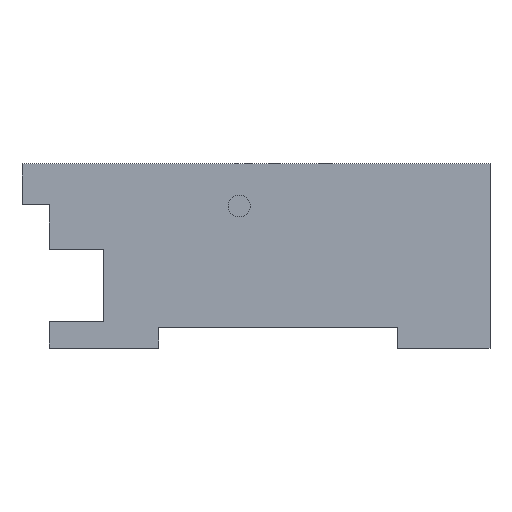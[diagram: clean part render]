
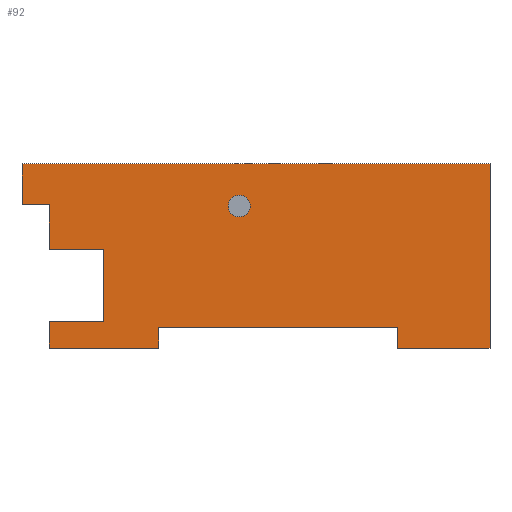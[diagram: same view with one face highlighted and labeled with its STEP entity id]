
A CAD part, top view. The second image highlights one B-rep face of the part: STEP entity #92.
In plain terms, the highlighted planar face has unit normal (0, 0, 1).
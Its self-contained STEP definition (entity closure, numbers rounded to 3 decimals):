
#6 = VERTEX_POINT ( 'NONE', #212 ) ;
#7 = EDGE_CURVE ( 'NONE', #6, #91, #211, .T. ) ;
#19 = VERTEX_POINT ( 'NONE', #282 ) ;
#21 = EDGE_CURVE ( 'NONE', #77, #19, #281, .T. ) ;
#40 = EDGE_CURVE ( 'NONE', #153, #91, #248, .T. ) ;
#62 = EDGE_CURVE ( 'NONE', #63, #114, #486, .T. ) ;
#63 = VERTEX_POINT ( 'NONE', #482 ) ;
#73 = EDGE_CURVE ( 'NONE', #74, #75, #466, .T. ) ;
#74 = VERTEX_POINT ( 'NONE', #462 ) ;
#75 = VERTEX_POINT ( 'NONE', #461 ) ;
#77 = VERTEX_POINT ( 'NONE', #456 ) ;
#79 = EDGE_CURVE ( 'NONE', #75, #77, #455, .T. ) ;
#91 = VERTEX_POINT ( 'NONE', #501 ) ;
#92 = ADVANCED_FACE ( 'NONE', ( #500, #499 ), #498, .F. ) ;
#93 = EDGE_LOOP ( 'NONE', ( #94, #96 ) ) ;
#94 = ORIENTED_EDGE ( 'NONE', *, *, #95, .F. ) ;
#95 = EDGE_CURVE ( 'NONE', #146, #142, #493, .T. ) ;
#96 = ORIENTED_EDGE ( 'NONE', *, *, #145, .F. ) ;
#97 = EDGE_LOOP ( 'NONE', ( #98, #99, #102, #162, #161, #410, #413, #415, #444, #445, #448, #451, #231, #232 ) ) ;
#98 = ORIENTED_EDGE ( 'NONE', *, *, #21, .T. ) ;
#99 = ORIENTED_EDGE ( 'NONE', *, *, #100, .T. ) ;
#100 = EDGE_CURVE ( 'NONE', #19, #101, #488, .T. ) ;
#101 = VERTEX_POINT ( 'NONE', #612 ) ;
#102 = ORIENTED_EDGE ( 'NONE', *, *, #103, .T. ) ;
#103 = EDGE_CURVE ( 'NONE', #101, #153, #611, .T. ) ;
#111 = VERTEX_POINT ( 'NONE', #591 ) ;
#113 = EDGE_CURVE ( 'NONE', #114, #111, #590, .T. ) ;
#114 = VERTEX_POINT ( 'NONE', #586 ) ;
#142 = VERTEX_POINT ( 'NONE', #671 ) ;
#145 = EDGE_CURVE ( 'NONE', #142, #146, #666, .T. ) ;
#146 = VERTEX_POINT ( 'NONE', #661 ) ;
#153 = VERTEX_POINT ( 'NONE', #646 ) ;
#161 = ORIENTED_EDGE ( 'NONE', *, *, #7, .F. ) ;
#162 = ORIENTED_EDGE ( 'NONE', *, *, #40, .T. ) ;
#211 = LINE ( 'NONE', #303, #302 ) ;
#212 = CARTESIAN_POINT ( 'NONE',  ( 8., 11.45, 5. ) ) ;
#230 = EDGE_CURVE ( 'NONE', #74, #450, #887, .T. ) ;
#231 = ORIENTED_EDGE ( 'NONE', *, *, #73, .T. ) ;
#232 = ORIENTED_EDGE ( 'NONE', *, *, #79, .T. ) ;
#245 = DIRECTION ( 'NONE',  ( 0., -1., 0. ) ) ;
#246 = VECTOR ( 'NONE', #245, 1000. ) ;
#247 = CARTESIAN_POINT ( 'NONE',  ( 0., -3., 5. ) ) ;
#248 = LINE ( 'NONE', #247, #246 ) ;
#278 = DIRECTION ( 'NONE',  ( -1., 0., 0. ) ) ;
#279 = VECTOR ( 'NONE', #278, 1000. ) ;
#280 = CARTESIAN_POINT ( 'NONE',  ( 0., 24., 5. ) ) ;
#281 = LINE ( 'NONE', #280, #279 ) ;
#282 = CARTESIAN_POINT ( 'NONE',  ( -4., 24., 5. ) ) ;
#301 = DIRECTION ( 'NONE',  ( -1., 0., 0. ) ) ;
#302 = VECTOR ( 'NONE', #301, 1000. ) ;
#303 = CARTESIAN_POINT ( 'NONE',  ( 0., 11.45, 5. ) ) ;
#410 = ORIENTED_EDGE ( 'NONE', *, *, #411, .F. ) ;
#411 = EDGE_CURVE ( 'NONE', #412, #6, #724, .T. ) ;
#412 = VERTEX_POINT ( 'NONE', #720 ) ;
#413 = ORIENTED_EDGE ( 'NONE', *, *, #414, .F. ) ;
#414 = EDGE_CURVE ( 'NONE', #63, #412, #719, .T. ) ;
#415 = ORIENTED_EDGE ( 'NONE', *, *, #62, .T. ) ;
#444 = ORIENTED_EDGE ( 'NONE', *, *, #113, .T. ) ;
#445 = ORIENTED_EDGE ( 'NONE', *, *, #446, .F. ) ;
#446 = EDGE_CURVE ( 'NONE', #447, #111, #1072, .T. ) ;
#447 = VERTEX_POINT ( 'NONE', #1041 ) ;
#448 = ORIENTED_EDGE ( 'NONE', *, *, #449, .F. ) ;
#449 = EDGE_CURVE ( 'NONE', #450, #447, #1073, .T. ) ;
#450 = VERTEX_POINT ( 'NONE', #1068 ) ;
#451 = ORIENTED_EDGE ( 'NONE', *, *, #230, .F. ) ;
#453 = VECTOR ( 'NONE', #521, 1000. ) ;
#454 = CARTESIAN_POINT ( 'NONE',  ( 64.5, -3., 5. ) ) ;
#455 = LINE ( 'NONE', #454, #453 ) ;
#456 = CARTESIAN_POINT ( 'NONE',  ( 64.5, 24., 5. ) ) ;
#461 = CARTESIAN_POINT ( 'NONE',  ( 64.5, -3., 5. ) ) ;
#462 = CARTESIAN_POINT ( 'NONE',  ( 51., -3., 5. ) ) ;
#463 = DIRECTION ( 'NONE',  ( 1., 0., 0. ) ) ;
#464 = VECTOR ( 'NONE', #463, 1000. ) ;
#465 = CARTESIAN_POINT ( 'NONE',  ( 0., -3., 5. ) ) ;
#466 = LINE ( 'NONE', #465, #464 ) ;
#482 = CARTESIAN_POINT ( 'NONE',  ( 0., 0.95, 5. ) ) ;
#483 = DIRECTION ( 'NONE',  ( 0., -1., 0. ) ) ;
#484 = VECTOR ( 'NONE', #483, 1000. ) ;
#485 = CARTESIAN_POINT ( 'NONE',  ( 0., -3., 5. ) ) ;
#486 = LINE ( 'NONE', #485, #484 ) ;
#487 = CARTESIAN_POINT ( 'NONE',  ( -4., 24., 5. ) ) ;
#488 = LINE ( 'NONE', #487, #614 ) ;
#489 = DIRECTION ( 'NONE',  ( 1., 0., 0. ) ) ;
#490 = DIRECTION ( 'NONE',  ( 0., 0., 1. ) ) ;
#491 = CARTESIAN_POINT ( 'NONE',  ( 27.8, 17.8, 5. ) ) ;
#492 = AXIS2_PLACEMENT_3D ( 'NONE', #491, #490, #489 ) ;
#493 = CIRCLE ( 'NONE', #492, 1.6 ) ;
#494 = DIRECTION ( 'NONE',  ( -1., 0., 0. ) ) ;
#495 = DIRECTION ( 'NONE',  ( 0., 0., -1. ) ) ;
#496 = CARTESIAN_POINT ( 'NONE',  ( 0., 24., 5. ) ) ;
#497 = AXIS2_PLACEMENT_3D ( 'NONE', #496, #495, #494 ) ;
#498 = PLANE ( 'NONE',  #497 ) ;
#499 = FACE_OUTER_BOUND ( 'NONE', #97, .T. ) ;
#500 = FACE_BOUND ( 'NONE', #93, .T. ) ;
#501 = CARTESIAN_POINT ( 'NONE',  ( 0., 11.45, 5. ) ) ;
#521 = DIRECTION ( 'NONE',  ( 0., 1., 0. ) ) ;
#586 = CARTESIAN_POINT ( 'NONE',  ( 0., -3., 5. ) ) ;
#587 = DIRECTION ( 'NONE',  ( 1., 0., 0. ) ) ;
#588 = VECTOR ( 'NONE', #587, 1000. ) ;
#589 = CARTESIAN_POINT ( 'NONE',  ( 0., -3., 5. ) ) ;
#590 = LINE ( 'NONE', #589, #588 ) ;
#591 = CARTESIAN_POINT ( 'NONE',  ( 16., -3., 5. ) ) ;
#608 = DIRECTION ( 'NONE',  ( 1., 0., 0. ) ) ;
#609 = VECTOR ( 'NONE', #608, 1000. ) ;
#610 = CARTESIAN_POINT ( 'NONE',  ( 0., 18., 5. ) ) ;
#611 = LINE ( 'NONE', #610, #609 ) ;
#612 = CARTESIAN_POINT ( 'NONE',  ( -4., 18., 5. ) ) ;
#613 = DIRECTION ( 'NONE',  ( 0., -1., 0. ) ) ;
#614 = VECTOR ( 'NONE', #613, 1000. ) ;
#646 = CARTESIAN_POINT ( 'NONE',  ( 0., 18., 5. ) ) ;
#661 = CARTESIAN_POINT ( 'NONE',  ( 29.4, 17.8, 5. ) ) ;
#662 = DIRECTION ( 'NONE',  ( 1., 0., 0. ) ) ;
#663 = DIRECTION ( 'NONE',  ( 0., 0., 1. ) ) ;
#664 = CARTESIAN_POINT ( 'NONE',  ( 27.8, 17.8, 5. ) ) ;
#665 = AXIS2_PLACEMENT_3D ( 'NONE', #664, #663, #662 ) ;
#666 = CIRCLE ( 'NONE', #665, 1.6 ) ;
#671 = CARTESIAN_POINT ( 'NONE',  ( 26.2, 17.8, 5. ) ) ;
#716 = DIRECTION ( 'NONE',  ( 1., 0., 0. ) ) ;
#717 = VECTOR ( 'NONE', #716, 1000. ) ;
#718 = CARTESIAN_POINT ( 'NONE',  ( 0., 0.95, 5. ) ) ;
#719 = LINE ( 'NONE', #718, #717 ) ;
#720 = CARTESIAN_POINT ( 'NONE',  ( 8., 0.95, 5. ) ) ;
#721 = DIRECTION ( 'NONE',  ( 0., 1., 0. ) ) ;
#722 = VECTOR ( 'NONE', #721, 1000. ) ;
#723 = CARTESIAN_POINT ( 'NONE',  ( 8., 11.45, 5. ) ) ;
#724 = LINE ( 'NONE', #723, #722 ) ;
#884 = DIRECTION ( 'NONE',  ( 0., 1., 0. ) ) ;
#885 = VECTOR ( 'NONE', #884, 1000. ) ;
#886 = CARTESIAN_POINT ( 'NONE',  ( 51., 0., 5. ) ) ;
#887 = LINE ( 'NONE', #886, #885 ) ;
#1041 = CARTESIAN_POINT ( 'NONE',  ( 16., 0., 5. ) ) ;
#1065 = VECTOR ( 'NONE', #1070, 1000. ) ;
#1066 = VECTOR ( 'NONE', #1069, 1000. ) ;
#1067 = CARTESIAN_POINT ( 'NONE',  ( 16., 0., 5. ) ) ;
#1068 = CARTESIAN_POINT ( 'NONE',  ( 51., 0., 5. ) ) ;
#1069 = DIRECTION ( 'NONE',  ( -1., 0., 0. ) ) ;
#1070 = DIRECTION ( 'NONE',  ( 0., -1., 0. ) ) ;
#1071 = CARTESIAN_POINT ( 'NONE',  ( 16., 0., 5. ) ) ;
#1072 = LINE ( 'NONE', #1071, #1065 ) ;
#1073 = LINE ( 'NONE', #1067, #1066 ) ;
